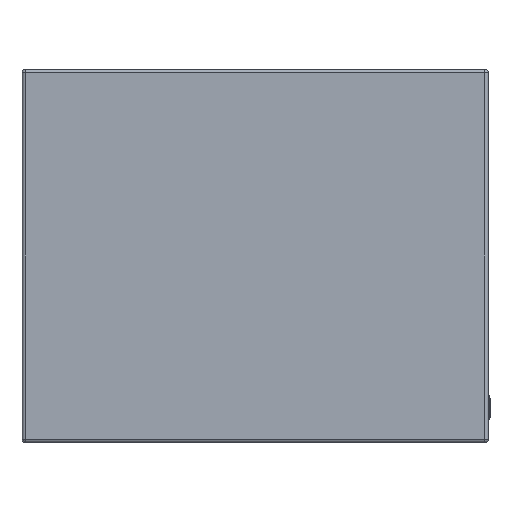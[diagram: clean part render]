
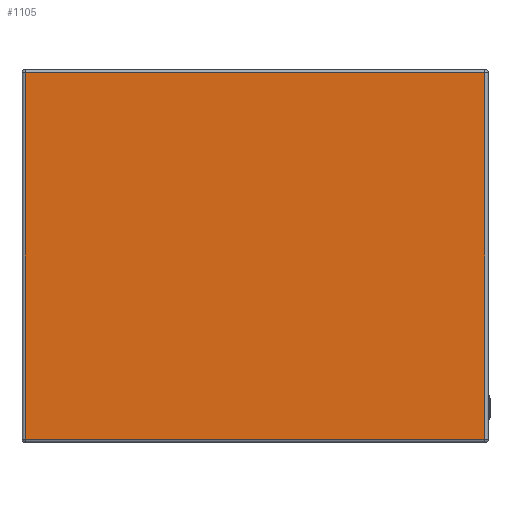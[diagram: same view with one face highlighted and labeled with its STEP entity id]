
A CAD part, left-side view. The second image highlights one B-rep face of the part: STEP entity #1105.
In plain terms, the highlighted planar face has unit normal (-1, 0, 0).
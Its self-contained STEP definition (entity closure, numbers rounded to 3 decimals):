
#159=FACE_OUTER_BOUND('',#231,.T.);
#231=EDGE_LOOP('',(#895,#896,#897,#898));
#314=LINE('',#1803,#407);
#326=LINE('',#1835,#419);
#333=LINE('',#1845,#426);
#336=LINE('',#1850,#429);
#407=VECTOR('',#1479,10.);
#419=VECTOR('',#1519,10.);
#426=VECTOR('',#1532,10.);
#429=VECTOR('',#1539,10.);
#489=VERTEX_POINT('',#1765);
#490=VERTEX_POINT('',#1769);
#496=VERTEX_POINT('',#1783);
#501=VERTEX_POINT('',#1796);
#620=EDGE_CURVE('',#501,#496,#314,.T.);
#638=EDGE_CURVE('',#490,#501,#326,.T.);
#645=EDGE_CURVE('',#496,#489,#333,.T.);
#648=EDGE_CURVE('',#489,#490,#336,.T.);
#895=ORIENTED_EDGE('',*,*,#620,.F.);
#896=ORIENTED_EDGE('',*,*,#638,.F.);
#897=ORIENTED_EDGE('',*,*,#648,.F.);
#898=ORIENTED_EDGE('',*,*,#645,.F.);
#974=PLANE('',#1235);
#1105=ADVANCED_FACE('',(#159),#974,.T.);
#1235=AXIS2_PLACEMENT_3D('',#1851,#1540,#1541);
#1479=DIRECTION('',(0.,0.,-1.));
#1519=DIRECTION('',(0.,-1.,0.));
#1532=DIRECTION('',(0.,1.,0.));
#1539=DIRECTION('',(0.,0.,1.));
#1540=DIRECTION('center_axis',(-1.,0.,0.));
#1541=DIRECTION('ref_axis',(0.,0.,1.));
#1765=CARTESIAN_POINT('',(-95.,397.,-157.));
#1769=CARTESIAN_POINT('',(-95.,397.,157.));
#1783=CARTESIAN_POINT('',(-95.,3.,-157.));
#1796=CARTESIAN_POINT('',(-95.,3.,157.));
#1803=CARTESIAN_POINT('',(-95.,3.,-80.));
#1835=CARTESIAN_POINT('',(-95.,0.,157.));
#1845=CARTESIAN_POINT('',(-95.,0.,-157.));
#1850=CARTESIAN_POINT('',(-95.,397.,-80.));
#1851=CARTESIAN_POINT('Origin',(-95.,0.,-160.));
